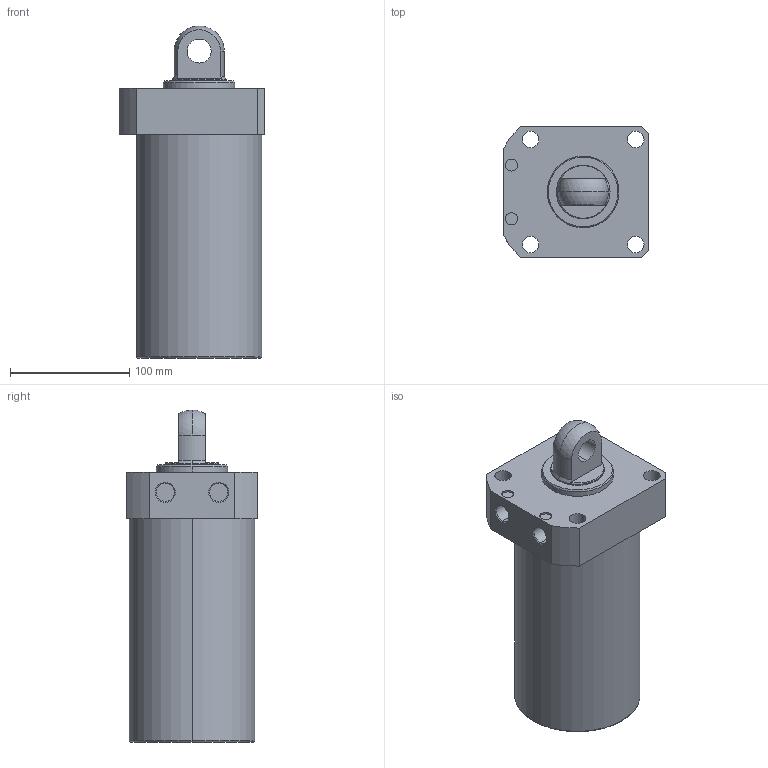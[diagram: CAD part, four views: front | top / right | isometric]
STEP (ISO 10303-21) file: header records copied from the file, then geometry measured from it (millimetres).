
FILE_DESCRIPTION (( 'STEP AP203' ), '1' );
FILE_NAME ('CLLR-105CP-140.STEP', '2019-12-18T08:15:49', ( '' ), ( '' ), 'SwSTEP 2.0', 'SolidWorks 2015', '' );
FILE_SCHEMA (( 'CONFIG_CONTROL_DESIGN' ));
Length unit declared in the file: millimetre
Products named in the file (1): CLLR-105CP-140
Bounding box: 122 x 110 x 278 mm (x, y, z)
Volume: 2145339 mm3; surface area: 119212 mm2
Topology: 1 solids, 1 shells, 59 faces, 139 edges, 89 vertices
Faces by surface type: cylinder 29, plane 18, cone 8, torus 2, sphere 2
Entity records: 1822 total; most frequent: DIRECTION 331, CARTESIAN_POINT 300, ORIENTED_EDGE 278, EDGE_CURVE 139, AXIS2_PLACEMENT_3D 136, VERTEX_POINT 89, EDGE_LOOP 76, CIRCLE 76
